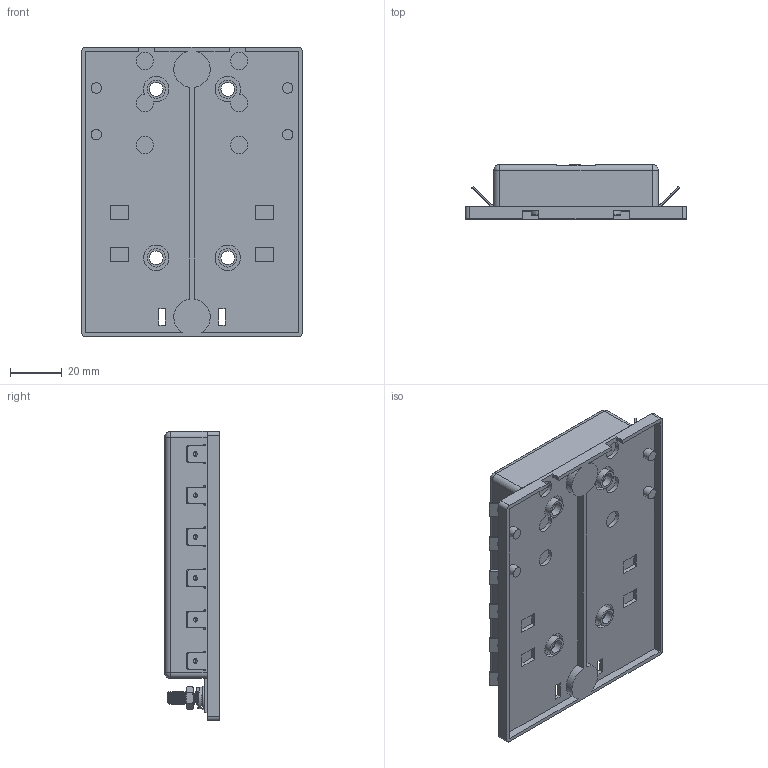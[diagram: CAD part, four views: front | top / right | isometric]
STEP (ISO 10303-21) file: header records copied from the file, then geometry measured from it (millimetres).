
FILE_DESCRIPTION(/* description */ (''),/* implementation_level */ '2;1');
FILE_NAME(/* name */ 'C:\Users\Hani\Desktop\work\BLC-112-G\BLC-112.stp',/* time_stamp */ '2021-07-08T12:23:09-07:00',/* author */ ('Hani'),/* organization */ (''),/* preprocessor_version */ 'ST-DEVELOPER v17',/* originating_system */ 'Autodesk Inventor 2019',/* authorisation */ '');
FILE_SCHEMA (('AUTOMOTIVE_DESIGN { 1 0 10303 214 3 1 1 }'));
Length unit declared in the file: inch
Products named in the file (10): BLC-112; BLC-112_1; BLOCK; plate2; STUD; WASHER; LOCK WASHER; HEX NUT; terminal; terminal_MIR
Assembly tree (27 placements, depth 2):
  BLC-112
    BLC-112_1
    BLOCK
    plate2
    STUD
    WASHER
    LOCK WASHER
    HEX NUT
    terminal  x10
    terminal_MIR  x10
Bounding box: 85.24 x 21.01 x 111.51 mm (x, y, z)
Volume: 112093.1 mm3; surface area: 56386.3 mm2
Topology: 27 solids, 27 shells, 1155 faces, 2999 edges, 1960 vertices
Faces by surface type: plane 818, cylinder 194, bspline 74, cone 48, torus 17, sphere 4
Full cylindrical faces by diameter (mm): 1.905 x20, 3.769 x16, 3.795 x1, 4.064 x4, 4.775 x1, 4.801 x17, 4.826 x3, 4.953 x1, 5.309 x4, 5.588 x4, 6.706 x4, 7.087 x4, 8.992 x1, 9.779 x2, 10.16 x2
Entity records: 31054 total; most frequent: CARTESIAN_POINT 10051, ORIENTED_EDGE 4450, DIRECTION 3870, EDGE_CURVE 2225, LINE 1678, VECTOR 1678, VERTEX_POINT 1456, AXIS2_PLACEMENT_3D 1096
